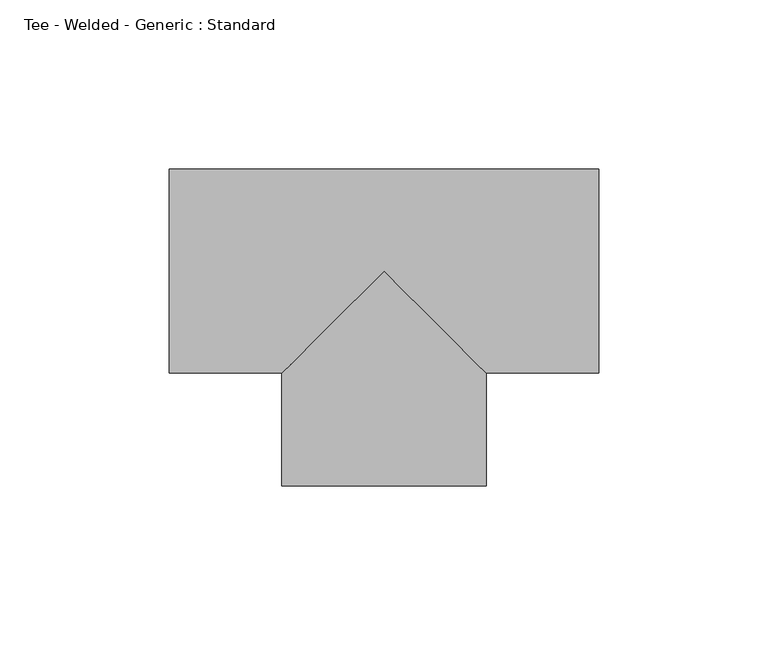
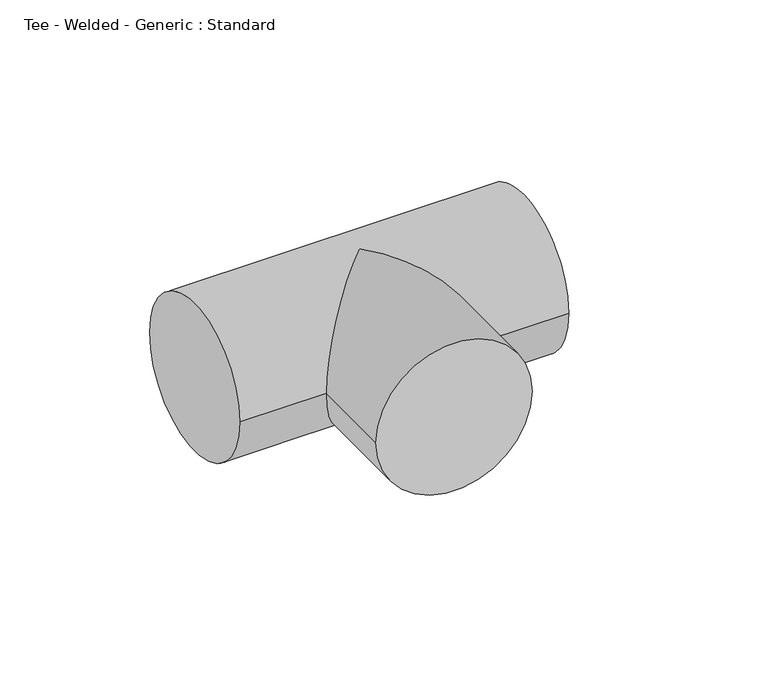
"""IFC4 building model written with IfcOpenShell, lengths in millimetres: pipe fitting geometry, Tee - Welded - Generic : Standard."""

from ifc_helpers import new_model, si_unit, frame, origin, place, context, project, spatial, circle_curve, ellipse_curve, source, transform, mapped, element, save
from ifc_brep_helpers import plane_surface, cylinder_surface, advanced_brep


def tee_welded_generic_standard_c5bf3693(model_context):
    return source(origin(), model_context, "Body", "AdvancedBrep", [
        advanced_brep(
        [(-63.5, -30.1625, 0.0), (-63.5, 30.1625, 0.0), (63.5, -30.1625, 0.0), (63.5, 30.1625, 0.0), (-30.1640285, -30.1625, 0.0), (0.0, 0.0, 30.1625), (30.1609715, -30.1625, 0.0), (0.0, 0.0, -30.1625), (-30.1657178, -63.4984714, 0.0), (30.1592821, -63.5015284, 0.0)],
        [
            (0, 1, circle_curve(frame((-63.5, 0.0, 0.0), z_axis=(-1.0, 0.0, 0.0), x_axis=(0.0, 1.0, 0.0)), 30.1625)),
            (1, 0, circle_curve(frame((-63.5, 0.0, 0.0), z_axis=(-1.0, 0.0, 0.0), x_axis=(0.0, 1.0, 0.0)), 30.1625)),
            (2, 3, circle_curve(frame((63.5, 0.0, 0.0), z_axis=(1.0, 0.0, 0.0), x_axis=(0.0, 1.0, 0.0)), 30.1625)),
            (3, 2, circle_curve(frame((63.5, 0.0, 0.0), z_axis=(1.0, 0.0, 0.0), x_axis=(0.0, 1.0, 0.0)), 30.1625)),
            (0, 4),
            (4, 5, ellipse_curve(frame((0.0, 0.0, 0.0), z_axis=(-0.7070888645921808, 0.707124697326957, 0.0), x_axis=(-0.707124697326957, -0.7070888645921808, 0.0)), 42.6572974, 30.1625)),
            (5, 6, ellipse_curve(frame((0.0, 0.0, 0.0), z_axis=(0.7071246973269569, 0.7070888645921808, 0.0), x_axis=(-0.7070888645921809, 0.7071246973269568, 0.0)), 42.6551358, 30.1625)),
            (6, 2),
            (3, 1),
            (6, 7, ellipse_curve(frame((0.0, 0.0, 0.0), z_axis=(0.7071246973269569, 0.7070888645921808, 0.0), x_axis=(-0.7070888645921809, 0.7071246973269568, 0.0)), 42.6551358, 30.1625)),
            (7, 4, ellipse_curve(frame((0.0, 0.0, 0.0), z_axis=(-0.7070888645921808, 0.707124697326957, 0.0), x_axis=(-0.707124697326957, -0.7070888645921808, 0.0)), 42.6572974, 30.1625)),
            (8, 9, circle_curve(frame((-0.0032179, -63.4999999, 0.0), z_axis=(-5.067513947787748e-05, -0.9999999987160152, 0.0), x_axis=(0.9999999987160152, -5.067513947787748e-05, 0.0)), 30.1625)),
            (9, 8, circle_curve(frame((-0.0032179, -63.4999999, 0.0), z_axis=(-5.067513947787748e-05, -0.9999999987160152, 0.0), x_axis=(0.9999999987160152, -5.067513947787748e-05, 0.0)), 30.1625)),
            (9, 6),
            (4, 8),
        ],
        [
            plane_surface(frame((-63.5, 0.0, 0.0), z_axis=(-1.0, 0.0, 0.0), x_axis=(0.0, 0.0, 1.0))),
            plane_surface(frame((63.5, 0.0, 0.0), z_axis=(1.0, 0.0, 0.0), x_axis=(0.0, 0.0, 1.0))),
            cylinder_surface(frame((-63.5, 0.0, 0.0), z_axis=(-1.0, 0.0, 0.0), x_axis=(0.0, 1.0, 0.0)), 30.1625),
            plane_surface(frame((-0.0032179, -63.4999999, 0.0), z_axis=(-5.067513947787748e-05, -0.9999999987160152, 0.0), x_axis=(0.0, 0.0, 1.0))),
            cylinder_surface(frame((0.0, 0.0, 0.0), z_axis=(5.067513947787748e-05, 0.9999999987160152, 0.0), x_axis=(0.9999999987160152, -5.067513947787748e-05, 0.0)), 30.1625),
        ],
        [
            (0, [[1, 2]]),
            (1, [[3, 4]]),
            (2, [[-1, 5, 6, 7, 8, -4, 9]]),
            (2, [[-2, -9, -3, -8, 10, 11, -5]]),
            (3, [[12, 13]]),
            (4, [[-13, 14, -7, -6, 15]]),
            (4, [[-12, -15, -11, -10, -14]]),
        ],
    ),
    ])


if __name__ == "__main__":
    model = new_model("IFC4")
    model_context = context("Model", 3, world=origin())
    ifc_project = project(units=[si_unit("LENGTHUNIT", "METRE", prefix="MILLI")], contexts=[model_context])
    site = spatial("IfcSite", under=ifc_project)
    building = spatial("IfcBuilding", under=site)
    placement = place(None, origin())
    tee_welded_generic_standard_shape = tee_welded_generic_standard_c5bf3693(model_context)
    element("IfcPipeFitting", 1, ObjectType="Tee - Welded - Generic : Standard", at=placement, inside=building, context=model_context, shape_type="MappedRepresentation", body=[
        mapped(tee_welded_generic_standard_shape, transform((0.0, 0.0, 0.0), x_axis=(1.0, 0.0, 0.0), y_axis=(0.0, 1.0, 0.0), z_axis=(0.0, 0.0, 1.0))),
    ])
    save(model, "model.ifc")
